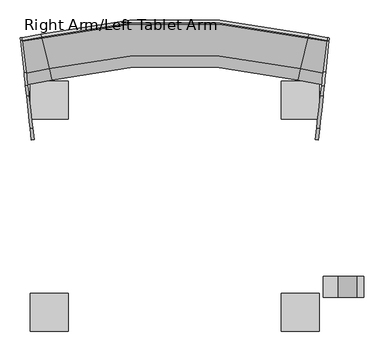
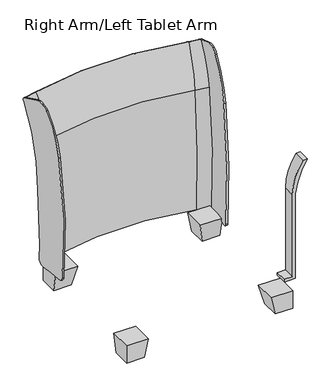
"""IFC4 building model written with IfcOpenShell, lengths in millimetres: furniture geometry, Steelcase Turnstone - Jenny - Seating - Lounge Chair : Right Arm/Left Tablet Arm."""

from ifc_helpers import new_model, si_unit, point, frame, frame_2d, origin, origin_with_axes, place, context, project, spatial, polyline, circle_curve, ellipse_curve, trimmed, segment, composite_curve, outline, extrude, faceted_brep, source, transform, mapped, element, save
from ifc_brep_helpers import plane_surface, revolved_surface, advanced_brep


def right_arm_left_tablet_arm_bb9a4e96(model_context):
    return source(origin(), model_context, "Body", "SolidModel", [
        extrude(outline(composite_curve([segment(trimmed(circle_curve(frame_2d((-271.7495755, 631.5743694)), 14.4058816), [point((-271.7495755, 645.9802509))], [point((-271.7495755, 617.1684878))], False, "CARTESIAN"), True, "CONTINUOUS"), segment(trimmed(circle_curve(frame_2d((-271.7495755, 631.5743694)), 14.4058816), [point((-271.7495755, 617.1684878))], [point((-271.7495755, 645.9802509))], False, "CARTESIAN"), True, "CONTINUOUS")], self_intersect=False)), origin_with_axes(), (0.0, 0.0, 1.0), 7.083069),
        extrude(outline(composite_curve([segment(trimmed(circle_curve(frame_2d((364.0680103, 631.2568742)), 14.4535487), [point((364.0680103, 645.7104229))], [point((364.0680103, 616.8033255))], False, "CARTESIAN"), True, "CONTINUOUS"), segment(trimmed(circle_curve(frame_2d((364.0680103, 631.2568742)), 14.4535487), [point((364.0680103, 616.8033255))], [point((364.0680103, 645.7104229))], False, "CARTESIAN"), True, "CONTINUOUS")], self_intersect=False)), origin_with_axes(), (0.0, 0.0, 1.0), 7.083069),
        faceted_brep([(324.8977267, 593.0641473, 7.083069), (324.8977267, 669.2641473, 7.083069), (401.0977267, 669.2641473, 7.083069), (401.0977267, 593.0641473, 7.083069), (307.6761035, 575.8429601, 95.4116322), (401.0977267, 575.8429601, 95.4116322), (401.0977267, 669.2641473, 95.4116322), (307.6761035, 669.2641473, 95.4116322)], [[[0, 1, 2, 3]], [[4, 5, 6, 7]], [[4, 7, 1, 0]], [[7, 6, 2, 1]], [[6, 5, 3, 2]], [[5, 4, 0, 3]]]),
        faceted_brep([(-233.4577267, 593.0641473, 7.083069), (-309.6577267, 593.0641473, 7.083069), (-309.6577267, 669.2641473, 7.083069), (-233.4577267, 669.2641473, 7.083069), (-216.2361035, 575.8429601, 95.4116322), (-216.2361035, 669.2641473, 95.4116322), (-309.6577267, 669.2641473, 95.4116322), (-309.6577267, 575.8429601, 95.4116322)], [[[0, 1, 2, 3]], [[4, 5, 6, 7]], [[4, 7, 1, 0]], [[7, 6, 2, 1]], [[6, 5, 3, 2]], [[5, 4, 0, 3]]]),
        extrude(outline(composite_curve([segment(trimmed(circle_curve(frame_2d((-271.7495755, 90.6150358)), 14.4058816), [point((-271.7495755, 76.2091543))], [point((-271.7495755, 105.0209174))], False, "CARTESIAN"), True, "CONTINUOUS"), segment(trimmed(circle_curve(frame_2d((-271.7495755, 90.6150358)), 14.4058816), [point((-271.7495755, 105.0209174))], [point((-271.7495755, 76.2091543))], False, "CARTESIAN"), True, "CONTINUOUS")], self_intersect=False)), origin_with_axes(), (0.0, 0.0, 1.0), 7.083069),
        extrude(outline(composite_curve([segment(trimmed(circle_curve(frame_2d((364.0680103, 90.932531)), 14.4535487), [point((364.0680103, 76.4789822))], [point((364.0680103, 105.3860797))], False, "CARTESIAN"), True, "CONTINUOUS"), segment(trimmed(circle_curve(frame_2d((364.0680103, 90.932531)), 14.4535487), [point((364.0680103, 105.3860797))], [point((364.0680103, 76.4789822))], False, "CARTESIAN"), True, "CONTINUOUS")], self_intersect=False)), origin_with_axes(), (0.0, 0.0, 1.0), 7.083069),
        faceted_brep([(324.8977267, 129.1252579, 7.083069), (401.0977267, 129.1252579, 7.083069), (401.0977267, 52.9252579, 7.083069), (324.8977267, 52.9252579, 7.083069), (307.6761035, 146.3464451, 85.2737648), (307.6761035, 52.9252579, 85.2737648), (401.0977267, 52.9252579, 85.2737648), (401.0977267, 146.3464451, 85.2737648)], [[[0, 1, 2, 3]], [[4, 5, 6, 7]], [[4, 7, 1, 0]], [[7, 6, 2, 1]], [[6, 5, 3, 2]], [[5, 4, 0, 3]]]),
        faceted_brep([(-233.4577267, 129.1252579, 7.083069), (-233.4577267, 52.9252579, 7.083069), (-309.6577267, 52.9252579, 7.083069), (-309.6577267, 129.1252579, 7.083069), (-216.2361035, 146.3464451, 85.2737648), (-309.6577267, 146.3464451, 85.2737648), (-309.6577267, 52.9252579, 85.2737648), (-216.2361035, 52.9252579, 85.2737648)], [[[0, 1, 2, 3]], [[4, 5, 6, 7]], [[4, 7, 1, 0]], [[7, 6, 2, 1]], [[6, 5, 3, 2]], [[5, 4, 0, 3]]]),
        extrude(outline(composite_curve([segment(trimmed(circle_curve(frame_2d((419.0031767, 773.4778054)), 315.1303859), [point((451.6044174, 460.0383068))], [point((592.311266, 510.2830746))], True, "CARTESIAN"), True, "CONTINUOUS"), segment(polyline([(592.311266, 510.2830746), (592.311266, 492.8706051)]), True, "CONTINUOUS"), segment(trimmed(circle_curve(frame_2d((452.3250069, 685.2950539)), 237.9565533), [point((592.311266, 492.8706051))], [point((452.3250069, 447.3385006))], False, "CARTESIAN"), True, "CONTINUOUS"), segment(polyline([(452.3250069, 447.3385006), (81.9210443, 447.3385006), (81.9210443, 411.48), (69.2210428, 411.48), (69.2210428, 460.0383068), (451.6044174, 460.0383068)]), True, "CONTINUOUS")], self_intersect=False)), frame((0.0, 136.9954231, 0.0), z_axis=(0.0, 1.0, 0.0), x_axis=(0.0, 0.0, 1.0)), (0.0, 0.0, 1.0), 50.8000242),
        advanced_brep(
        [(-319.3128558, 688.9118721, 614.3798536), (-328.4886501, 766.5758751, 782.0850534), (-328.7377532, 768.6842856, 781.0193185), (-329.3646857, 773.9906478, 763.3929272), (-319.0040839, 686.2984239, 412.1857232), (-317.8644919, 676.6529077, 226.5942002), (-317.829176, 676.3539931, 111.3923483), (-316.9201057, 668.6596146, 90.0869227), (-281.3474538, 775.0009474, 782.0850534), (-263.054252, 698.9664071, 614.3798536), (-281.8440748, 777.0651215, 781.0193185), (-283.0939506, 782.2601513, 763.3929272), (-262.4386729, 696.4077914, 412.1857232), (-260.1667403, 686.964647, 226.5942002), (-260.0963331, 686.6720039, 111.3923483), (-258.2839772, 679.1390607, 90.0869227), (372.7874538, 775.0009474, 782.0850534), (354.494252, 698.9664071, 614.3798536), (373.2840748, 777.0651215, 781.0193185), (374.5339506, 782.2601513, 763.3929272), (353.8786729, 696.4077914, 412.1857232), (351.6067403, 686.964647, 226.5942002), (351.5363331, 686.6720039, 111.3923483), (349.7239772, 679.1390607, 90.0869227), (410.7528558, 688.9118721, 614.3798536), (408.3601057, 668.6596146, 90.0869227), (409.269176, 676.3539931, 111.3923483), (409.3044919, 676.6529077, 226.5942002), (410.4440839, 686.2984239, 412.1857232), (420.8046857, 773.9906478, 763.3929272), (420.1777532, 768.6842856, 781.0193185), (419.9286501, 766.5758751, 782.0850534)],
        [
            (0, 1, circle_curve(frame((-361.2620142, 1043.9699138, 549.7445151), z_axis=(-0.9930928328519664, -0.11733126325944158, 0.0), x_axis=(-0.11733126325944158, 0.9930928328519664, 0.0)), 363.3230957)),
            (1, 2),
            (2, 3, circle_curve(frame((-328.0692515, 763.0260816, 769.6690835), z_axis=(-0.9930928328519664, -0.11733126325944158, 0.0), x_axis=(-0.11733126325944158, 0.9930928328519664, 0.0)), 12.7)),
            (3, 4, circle_curve(frame((-398.4640732, 1358.8484643, 428.618251), z_axis=(0.9930928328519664, 0.11733126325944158, 0.0), x_axis=(-0.11733126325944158, 0.9930928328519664, 0.0)), 677.4270991)),
            (4, 5, circle_curve(frame((-176.4714301, -520.0991972, 382.7096079), z_axis=(-0.9930928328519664, -0.11733126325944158, 0.0), x_axis=(-0.11733126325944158, 0.9930928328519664, 0.0)), 1215.145925)),
            (5, 6, circle_curve(frame((-371.1075775, 1127.3028473, 167.8072561), z_axis=(0.9930928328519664, 0.11733126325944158, 0.0), x_axis=(-0.11733126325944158, 0.9930928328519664, 0.0)), 457.5763313)),
            (6, 7, circle_curve(frame((-314.9285798, 651.8033223, 108.3209937), z_axis=(-0.9930928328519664, -0.11733126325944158, 0.0), x_axis=(-0.11733126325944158, 0.9930928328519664, 0.0)), 24.9114856)),
            (7, 0, circle_curve(frame((-536.4175659, 2526.4880272, 279.8645269), z_axis=(-0.9930928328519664, -0.11733126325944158, 0.0), x_axis=(-0.11733126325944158, 0.9930928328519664, 0.0)), 1880.3513194)),
            (8, 1, circle_curve(frame((-375.9317332, 1168.1345426, 782.0850534), z_axis=(0.0, 0.0, -1.0), x_axis=(0.1173312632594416, -0.9930928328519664, 0.0)), 404.3515915)),
            (0, 9, circle_curve(frame((-375.9317332, 1168.1345426, 614.3798536), z_axis=(0.0, 0.0, 1.0), x_axis=(0.1173312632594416, -0.9930928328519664, 0.0)), 482.5557637)),
            (9, 8, circle_curve(frame((-346.6856407, 1046.5750026, 549.7445151), z_axis=(-0.9722568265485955, -0.23391593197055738, 0.0), x_axis=(-0.23391593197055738, 0.9722568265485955, 0.0)), 363.3230957)),
            (10, 2, circle_curve(frame((-375.9317332, 1168.1345426, 781.0193185), z_axis=(0.0, 0.0, -1.0), x_axis=(0.1173312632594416, -0.9930928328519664, 0.0)), 402.2285166)),
            (8, 10),
            (11, 3, circle_curve(frame((-375.9317332, 1168.1345426, 763.3929272), z_axis=(0.0, 0.0, -1.0), x_axis=(0.1173312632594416, -0.9930928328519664, 0.0)), 396.8852475)),
            (10, 11, circle_curve(frame((-280.5113253, 771.5256318, 769.6690835), z_axis=(-0.9722568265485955, -0.23391593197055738, 0.0), x_axis=(-0.23391593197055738, 0.9722568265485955, 0.0)), 12.7)),
            (12, 4, circle_curve(frame((-375.9317332, 1168.1345426, 412.1857232), z_axis=(0.0, 0.0, -1.0), x_axis=(0.1173312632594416, -0.9930928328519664, 0.0)), 485.187389)),
            (11, 12, circle_curve(frame((-420.8530368, 1354.8471098, 428.618251), z_axis=(0.9722568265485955, 0.23391593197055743, 0.0), x_axis=(-0.23391593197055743, 0.9722568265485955, 0.0)), 677.4270991)),
            (13, 5, circle_curve(frame((-375.9317332, 1168.1345426, 226.5942002), z_axis=(0.0, 0.0, -1.0), x_axis=(0.1173312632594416, -0.9930928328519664, 0.0)), 494.8999918)),
            (12, 13, circle_curve(frame((21.7196802, -484.6784917, 382.7096079), z_axis=(-0.9722568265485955, -0.23391593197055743, 0.0), x_axis=(-0.23391593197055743, 0.9722568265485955, 0.0)), 1215.145925)),
            (14, 6, circle_curve(frame((-375.9317332, 1168.1345426, 111.3923483), z_axis=(0.0, 0.0, -1.0), x_axis=(0.1173312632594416, -0.9930928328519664, 0.0)), 495.2009855)),
            (13, 14, circle_curve(frame((-366.3141186, 1128.159534, 167.8072561), z_axis=(0.9722568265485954, 0.2339159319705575, 0.0), x_axis=(-0.2339159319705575, 0.9722568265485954, 0.0)), 457.5763313)),
            (15, 7, circle_curve(frame((-375.9317332, 1168.1345426, 90.0869227), z_axis=(0.0, 0.0, -1.0), x_axis=(0.1173312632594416, -0.9930928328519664, 0.0)), 502.9488799)),
            (14, 15, circle_curve(frame((-254.3135978, 662.6364289, 108.3209937), z_axis=(-0.9722568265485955, -0.23391593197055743, 0.0), x_axis=(-0.23391593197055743, 0.9722568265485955, 0.0)), 24.9114856)),
            (15, 9, circle_curve(frame((-695.8822058, 2497.9885145, 279.8645269), z_axis=(-0.9722568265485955, -0.2339159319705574, 0.0), x_axis=(-0.2339159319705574, 0.9722568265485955, 0.0)), 1880.3513194)),
            (16, 8, circle_curve(frame((45.72, -584.4343079, 782.0850534), z_axis=(0.0, 0.0, 1.0), x_axis=(-0.23391593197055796, 0.9722568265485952, 0.0)), 1398.2264955)),
            (9, 17, circle_curve(frame((45.72, -584.4343079, 614.3798536), z_axis=(0.0, 0.0, -1.0), x_axis=(-0.23391593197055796, 0.9722568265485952, 0.0)), 1320.0223232)),
            (17, 16, circle_curve(frame((438.1256407, 1046.5750026, 549.7445151), z_axis=(-0.972256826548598, 0.23391593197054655, 0.0), x_axis=(0.23391593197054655, 0.972256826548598, 0.0)), 363.3230957)),
            (18, 10, circle_curve(frame((45.72, -584.4343079, 781.0193185), z_axis=(0.0, 0.0, 1.0), x_axis=(-0.23391593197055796, 0.9722568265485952, 0.0)), 1400.3495704)),
            (16, 18),
            (19, 11, circle_curve(frame((45.72, -584.4343079, 763.3929272), z_axis=(0.0, 0.0, 1.0), x_axis=(-0.23391593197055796, 0.9722568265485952, 0.0)), 1405.6928394)),
            (18, 19, circle_curve(frame((371.9513253, 771.5256318, 769.6690835), z_axis=(-0.9722568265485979, 0.233915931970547, 0.0), x_axis=(0.233915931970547, 0.9722568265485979, 0.0)), 12.7)),
            (20, 12, circle_curve(frame((45.72, -584.4343079, 412.1857232), z_axis=(0.0, 0.0, 1.0), x_axis=(-0.23391593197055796, 0.9722568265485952, 0.0)), 1317.3906979)),
            (19, 20, circle_curve(frame((512.2930368, 1354.8471098, 428.618251), z_axis=(0.9722568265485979, -0.23391593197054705, 0.0), x_axis=(0.23391593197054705, 0.9722568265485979, 0.0)), 677.4270991)),
            (21, 13, circle_curve(frame((45.72, -584.4343079, 226.5942002), z_axis=(0.0, 0.0, 1.0), x_axis=(-0.23391593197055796, 0.9722568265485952, 0.0)), 1307.6780951)),
            (20, 21, circle_curve(frame((69.7203198, -484.6784917, 382.7096079), z_axis=(-0.972256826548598, 0.2339159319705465, 0.0), x_axis=(0.2339159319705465, 0.972256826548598, 0.0)), 1215.145925)),
            (22, 14, circle_curve(frame((45.72, -584.4343079, 111.3923483), z_axis=(0.0, 0.0, 1.0), x_axis=(-0.23391593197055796, 0.9722568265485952, 0.0)), 1307.3771015)),
            (21, 22, circle_curve(frame((457.7541186, 1128.159534, 167.8072561), z_axis=(0.972256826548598, -0.2339159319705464, 0.0), x_axis=(0.2339159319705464, 0.972256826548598, 0.0)), 457.5763313)),
            (23, 15, circle_curve(frame((45.72, -584.4343079, 90.0869227), z_axis=(0.0, 0.0, 1.0), x_axis=(-0.23391593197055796, 0.9722568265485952, 0.0)), 1299.629207)),
            (22, 23, circle_curve(frame((345.7535978, 662.6364289, 108.3209937), z_axis=(-0.972256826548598, 0.23391593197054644, 0.0), x_axis=(0.23391593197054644, 0.972256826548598, 0.0)), 24.9114856)),
            (23, 17, circle_curve(frame((787.3222058, 2497.9885145, 279.8645269), z_axis=(-0.9722568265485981, 0.23391593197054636, 0.0), x_axis=(0.23391593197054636, 0.9722568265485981, 0.0)), 1880.3513194)),
            (24, 25, circle_curve(frame((627.8575659, 2526.4880272, 279.8645269), z_axis=(0.9930928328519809, -0.11733126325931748, 0.0), x_axis=(0.11733126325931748, 0.9930928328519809, 0.0)), 1880.3513194)),
            (25, 26, circle_curve(frame((406.3685798, 651.8033223, 108.3209937), z_axis=(0.9930928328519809, -0.11733126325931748, 0.0), x_axis=(0.11733126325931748, 0.9930928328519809, 0.0)), 24.9114856)),
            (26, 27, circle_curve(frame((462.5475775, 1127.3028473, 167.8072561), z_axis=(-0.9930928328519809, 0.11733126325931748, 0.0), x_axis=(0.11733126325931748, 0.9930928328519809, 0.0)), 457.5763313)),
            (27, 28, circle_curve(frame((267.9114301, -520.0991972, 382.7096079), z_axis=(0.9930928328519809, -0.11733126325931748, 0.0), x_axis=(0.11733126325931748, 0.9930928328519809, 0.0)), 1215.145925)),
            (28, 29, circle_curve(frame((489.9040732, 1358.8484643, 428.618251), z_axis=(-0.9930928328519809, 0.11733126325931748, 0.0), x_axis=(0.11733126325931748, 0.9930928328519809, 0.0)), 677.4270991)),
            (29, 30, circle_curve(frame((419.5092515, 763.0260816, 769.6690835), z_axis=(0.9930928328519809, -0.11733126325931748, 0.0), x_axis=(0.11733126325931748, 0.9930928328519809, 0.0)), 12.7)),
            (30, 31),
            (31, 24, circle_curve(frame((452.7020142, 1043.9699138, 549.7445151), z_axis=(0.9930928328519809, -0.11733126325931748, 0.0), x_axis=(0.11733126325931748, 0.9930928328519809, 0.0)), 363.3230957)),
            (31, 16, circle_curve(frame((467.3717332, 1168.1345426, 782.0850534), z_axis=(0.0, 0.0, -1.0), x_axis=(-0.2339159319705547, -0.972256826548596, 0.0)), 404.3515915)),
            (17, 24, circle_curve(frame((467.3717332, 1168.1345426, 614.3798536), z_axis=(0.0, 0.0, 1.0), x_axis=(-0.2339159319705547, -0.972256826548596, 0.0)), 482.5557637)),
            (30, 18, circle_curve(frame((467.3717332, 1168.1345426, 781.0193185), z_axis=(0.0, 0.0, -1.0), x_axis=(-0.2339159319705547, -0.972256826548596, 0.0)), 402.2285166)),
            (29, 19, circle_curve(frame((467.3717332, 1168.1345426, 763.3929272), z_axis=(0.0, 0.0, -1.0), x_axis=(-0.2339159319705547, -0.972256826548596, 0.0)), 396.8852475)),
            (28, 20, circle_curve(frame((467.3717332, 1168.1345426, 412.1857232), z_axis=(0.0, 0.0, -1.0), x_axis=(-0.2339159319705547, -0.972256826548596, 0.0)), 485.187389)),
            (27, 21, circle_curve(frame((467.3717332, 1168.1345426, 226.5942002), z_axis=(0.0, 0.0, -1.0), x_axis=(-0.2339159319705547, -0.972256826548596, 0.0)), 494.8999918)),
            (26, 22, circle_curve(frame((467.3717332, 1168.1345426, 111.3923483), z_axis=(0.0, 0.0, -1.0), x_axis=(-0.2339159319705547, -0.972256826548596, 0.0)), 495.2009855)),
            (25, 23, circle_curve(frame((467.3717332, 1168.1345426, 90.0869227), z_axis=(0.0, 0.0, -1.0), x_axis=(-0.2339159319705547, -0.972256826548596, 0.0)), 502.9488799)),
        ],
        [
            plane_surface(frame((-309.88, 609.0720985, 0.0), z_axis=(-0.9930928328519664, -0.1173312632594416, 0.0), x_axis=(0.0, 0.0, 1.0))),
            revolved_surface(trimmed(ellipse_curve(frame((-361.2620142, 1043.9699138, 549.7445151), z_axis=(-0.9930928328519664, -0.11733126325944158, 0.0), x_axis=(-0.11733126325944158, 0.9930928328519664, 0.0)), 363.3230957, 363.3230957), [point((-319.3128558, 688.9118721, 614.3798536))], [point((-328.4886501, 766.5758751, 782.0850534))], True, "CARTESIAN"), (-375.9317332, 1168.1345426, 0.0), (0.0, 0.0, 1.0)),
            revolved_surface(polyline([(-328.4886501, 766.5758751, 782.0850534), (-328.7377532, 768.6842856, 781.0193185)]), (-375.9317332, 1168.1345426, 0.0), (0.0, 0.0, 1.0)),
            revolved_surface(trimmed(ellipse_curve(frame((-328.0692515, 763.0260816, 769.6690835), z_axis=(-0.9930928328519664, -0.11733126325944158, 0.0), x_axis=(-0.11733126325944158, 0.9930928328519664, 0.0)), 12.7, 12.7), [point((-328.7377532, 768.6842856, 781.0193185))], [point((-329.3646857, 773.9906478, 763.3929272))], True, "CARTESIAN"), (-375.9317332, 1168.1345426, 0.0), (0.0, 0.0, 1.0)),
            revolved_surface(trimmed(ellipse_curve(frame((-398.4640732, 1358.8484643, 428.618251), z_axis=(0.9930928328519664, 0.11733126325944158, 0.0), x_axis=(-0.11733126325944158, 0.9930928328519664, 0.0)), 677.4270991, 677.4270991), [point((-329.3646857, 773.9906478, 763.3929272))], [point((-319.0040839, 686.2984239, 412.1857232))], True, "CARTESIAN"), (-375.9317332, 1168.1345426, 0.0), (0.0, 0.0, 1.0)),
            revolved_surface(trimmed(ellipse_curve(frame((-176.4714301, -520.0991972, 382.7096079), z_axis=(-0.9930928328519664, -0.11733126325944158, 0.0), x_axis=(-0.11733126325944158, 0.9930928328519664, 0.0)), 1215.145925, 1215.145925), [point((-319.0040839, 686.2984239, 412.1857232))], [point((-317.8644919, 676.6529077, 226.5942002))], True, "CARTESIAN"), (-375.9317332, 1168.1345426, 0.0), (0.0, 0.0, 1.0)),
            revolved_surface(trimmed(ellipse_curve(frame((-371.1075775, 1127.3028473, 167.8072561), z_axis=(0.9930928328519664, 0.11733126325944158, 0.0), x_axis=(-0.11733126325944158, 0.9930928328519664, 0.0)), 457.5763313, 457.5763313), [point((-317.8644919, 676.6529077, 226.5942002))], [point((-317.829176, 676.3539931, 111.3923483))], True, "CARTESIAN"), (-375.9317332, 1168.1345426, 0.0), (0.0, 0.0, 1.0)),
            revolved_surface(trimmed(ellipse_curve(frame((-314.9285798, 651.8033223, 108.3209937), z_axis=(-0.9930928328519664, -0.11733126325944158, 0.0), x_axis=(-0.11733126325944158, 0.9930928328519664, 0.0)), 24.9114856, 24.9114856), [point((-317.829176, 676.3539931, 111.3923483))], [point((-316.9201057, 668.6596146, 90.0869227))], True, "CARTESIAN"), (-375.9317332, 1168.1345426, 0.0), (0.0, 0.0, 1.0)),
            revolved_surface(trimmed(ellipse_curve(frame((-536.4175659, 2526.4880272, 279.8645269), z_axis=(-0.9930928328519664, -0.11733126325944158, 0.0), x_axis=(-0.11733126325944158, 0.9930928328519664, 0.0)), 1880.3513194, 1880.3513194), [point((-316.9201057, 668.6596146, 90.0869227))], [point((-319.3128558, 688.9118721, 614.3798536))], True, "CARTESIAN"), (-375.9317332, 1168.1345426, 0.0), (0.0, 0.0, 1.0)),
            revolved_surface(trimmed(ellipse_curve(frame((-346.6856407, 1046.5750026, 549.7445151), z_axis=(-0.9722568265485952, -0.23391593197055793, 0.0), x_axis=(-0.23391593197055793, 0.9722568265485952, 0.0)), 363.3230957, 363.3230957), [point((-263.054252, 698.9664071, 614.3798536))], [point((-281.3474538, 775.0009474, 782.0850534))], True, "CARTESIAN"), (45.72, -584.4343079, 0.0), (0.0, 0.0, -1.0)),
            revolved_surface(polyline([(-281.3474538, 775.0009474, 782.0850534), (-281.8440748, 777.0651215, 781.0193185)]), (45.72, -584.4343079, 0.0), (0.0, 0.0, -1.0)),
            revolved_surface(trimmed(ellipse_curve(frame((-280.5113253, 771.5256318, 769.6690835), z_axis=(-0.9722568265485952, -0.23391593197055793, 0.0), x_axis=(-0.23391593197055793, 0.9722568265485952, 0.0)), 12.7, 12.7), [point((-281.8440748, 777.0651215, 781.0193185))], [point((-283.0939506, 782.2601513, 763.3929272))], True, "CARTESIAN"), (45.72, -584.4343079, 0.0), (0.0, 0.0, -1.0)),
            revolved_surface(trimmed(ellipse_curve(frame((-420.8530368, 1354.8471098, 428.618251), z_axis=(0.9722568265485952, 0.23391593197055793, 0.0), x_axis=(-0.23391593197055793, 0.9722568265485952, 0.0)), 677.4270991, 677.4270991), [point((-283.0939506, 782.2601513, 763.3929272))], [point((-262.4386729, 696.4077914, 412.1857232))], True, "CARTESIAN"), (45.72, -584.4343079, 0.0), (0.0, 0.0, -1.0)),
            revolved_surface(trimmed(ellipse_curve(frame((21.7196802, -484.6784917, 382.7096079), z_axis=(-0.9722568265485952, -0.23391593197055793, 0.0), x_axis=(-0.23391593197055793, 0.9722568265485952, 0.0)), 1215.145925, 1215.145925), [point((-262.4386729, 696.4077914, 412.1857232))], [point((-260.1667403, 686.964647, 226.5942002))], True, "CARTESIAN"), (45.72, -584.4343079, 0.0), (0.0, 0.0, -1.0)),
            revolved_surface(trimmed(ellipse_curve(frame((-366.3141186, 1128.159534, 167.8072561), z_axis=(0.9722568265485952, 0.23391593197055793, 0.0), x_axis=(-0.23391593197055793, 0.9722568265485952, 0.0)), 457.5763313, 457.5763313), [point((-260.1667403, 686.964647, 226.5942002))], [point((-260.0963331, 686.6720039, 111.3923483))], True, "CARTESIAN"), (45.72, -584.4343079, 0.0), (0.0, 0.0, -1.0)),
            revolved_surface(trimmed(ellipse_curve(frame((-254.3135978, 662.6364289, 108.3209937), z_axis=(-0.9722568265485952, -0.23391593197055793, 0.0), x_axis=(-0.23391593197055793, 0.9722568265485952, 0.0)), 24.9114856, 24.9114856), [point((-260.0963331, 686.6720039, 111.3923483))], [point((-258.2839772, 679.1390607, 90.0869227))], True, "CARTESIAN"), (45.72, -584.4343079, 0.0), (0.0, 0.0, -1.0)),
            revolved_surface(trimmed(ellipse_curve(frame((-695.8822058, 2497.9885145, 279.8645269), z_axis=(-0.9722568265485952, -0.23391593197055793, 0.0), x_axis=(-0.23391593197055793, 0.9722568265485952, 0.0)), 1880.3513194, 1880.3513194), [point((-258.2839772, 679.1390607, 90.0869227))], [point((-263.054252, 698.9664071, 614.3798536))], True, "CARTESIAN"), (45.72, -584.4343079, 0.0), (0.0, 0.0, -1.0)),
            plane_surface(frame((401.32, 609.0720985, 0.0), z_axis=(0.993092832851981, -0.11733126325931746, 0.0), x_axis=(0.0, 0.0, 1.0))),
            revolved_surface(trimmed(ellipse_curve(frame((438.1256407, 1046.5750026, 549.7445151), z_axis=(-0.972256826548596, 0.2339159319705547, 0.0), x_axis=(0.2339159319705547, 0.972256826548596, 0.0)), 363.3230957, 363.3230957), [point((354.494252, 698.9664071, 614.3798536))], [point((372.7874538, 775.0009474, 782.0850534))], True, "CARTESIAN"), (467.3717332, 1168.1345426, 0.0), (0.0, 0.0, 1.0)),
            revolved_surface(polyline([(372.7874538, 775.0009474, 782.0850534), (373.2840748, 777.0651215, 781.0193185)]), (467.3717332, 1168.1345426, 0.0), (0.0, 0.0, 1.0)),
            revolved_surface(trimmed(ellipse_curve(frame((371.9513253, 771.5256318, 769.6690835), z_axis=(-0.972256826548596, 0.2339159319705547, 0.0), x_axis=(0.2339159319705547, 0.972256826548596, 0.0)), 12.7, 12.7), [point((373.2840748, 777.0651215, 781.0193185))], [point((374.5339506, 782.2601513, 763.3929272))], True, "CARTESIAN"), (467.3717332, 1168.1345426, 0.0), (0.0, 0.0, 1.0)),
            revolved_surface(trimmed(ellipse_curve(frame((512.2930368, 1354.8471098, 428.618251), z_axis=(0.972256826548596, -0.2339159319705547, 0.0), x_axis=(0.2339159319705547, 0.972256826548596, 0.0)), 677.4270991, 677.4270991), [point((374.5339506, 782.2601513, 763.3929272))], [point((353.8786729, 696.4077914, 412.1857232))], True, "CARTESIAN"), (467.3717332, 1168.1345426, 0.0), (0.0, 0.0, 1.0)),
            revolved_surface(trimmed(ellipse_curve(frame((69.7203198, -484.6784917, 382.7096079), z_axis=(-0.972256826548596, 0.2339159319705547, 0.0), x_axis=(0.2339159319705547, 0.972256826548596, 0.0)), 1215.145925, 1215.145925), [point((353.8786729, 696.4077914, 412.1857232))], [point((351.6067403, 686.964647, 226.5942002))], True, "CARTESIAN"), (467.3717332, 1168.1345426, 0.0), (0.0, 0.0, 1.0)),
            revolved_surface(trimmed(ellipse_curve(frame((457.7541186, 1128.159534, 167.8072561), z_axis=(0.972256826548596, -0.2339159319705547, 0.0), x_axis=(0.2339159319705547, 0.972256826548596, 0.0)), 457.5763313, 457.5763313), [point((351.6067403, 686.964647, 226.5942002))], [point((351.5363331, 686.6720039, 111.3923483))], True, "CARTESIAN"), (467.3717332, 1168.1345426, 0.0), (0.0, 0.0, 1.0)),
            revolved_surface(trimmed(ellipse_curve(frame((345.7535978, 662.6364289, 108.3209937), z_axis=(-0.972256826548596, 0.2339159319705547, 0.0), x_axis=(0.2339159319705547, 0.972256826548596, 0.0)), 24.9114856, 24.9114856), [point((351.5363331, 686.6720039, 111.3923483))], [point((349.7239772, 679.1390607, 90.0869227))], True, "CARTESIAN"), (467.3717332, 1168.1345426, 0.0), (0.0, 0.0, 1.0)),
            revolved_surface(trimmed(ellipse_curve(frame((787.3222058, 2497.9885145, 279.8645269), z_axis=(-0.972256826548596, 0.2339159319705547, 0.0), x_axis=(0.2339159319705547, 0.972256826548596, 0.0)), 1880.3513194, 1880.3513194), [point((349.7239772, 679.1390607, 90.0869227))], [point((354.494252, 698.9664071, 614.3798536))], True, "CARTESIAN"), (467.3717332, 1168.1345426, 0.0), (0.0, 0.0, 1.0)),
        ],
        [
            (0, [[1, 2, 3, 4, 5, 6, 7, 8]]),
            (1, [[9, -1, 10, 11]]),
            (2, [[12, -2, -9, 13]]),
            (3, [[14, -3, -12, 15]]),
            (4, [[16, -4, -14, 17]]),
            (5, [[18, -5, -16, 19]]),
            (6, [[20, -6, -18, 21]]),
            (7, [[22, -7, -20, 23]]),
            (8, [[-10, -8, -22, 24]]),
            (9, [[25, -11, 26, 27]]),
            (10, [[28, -13, -25, 29]]),
            (11, [[30, -15, -28, 31]]),
            (12, [[32, -17, -30, 33]]),
            (13, [[34, -19, -32, 35]]),
            (14, [[36, -21, -34, 37]]),
            (15, [[38, -23, -36, 39]]),
            (16, [[-26, -24, -38, 40]]),
            (17, [[41, 42, 43, 44, 45, 46, 47, 48]]),
            (18, [[49, -27, 50, -48]]),
            (19, [[51, -29, -49, -47]]),
            (20, [[52, -31, -51, -46]]),
            (21, [[53, -33, -52, -45]]),
            (22, [[54, -35, -53, -44]]),
            (23, [[55, -37, -54, -43]]),
            (24, [[56, -39, -55, -42]]),
            (25, [[-50, -40, -56, -41]]),
        ],
    ),
        advanced_brep(
        [(416.7431422, 690.4168678, 813.9027777), (413.2278894, 657.2478941, 814.4538477), (410.5581433, 632.056893, 797.7221008), (402.1268462, 552.5014564, 627.8736036), (400.0484196, 532.8899867, 97.0710008), (402.1149504, 552.3892108, 81.9987921), (412.2567036, 648.0840483, 83.5957513), (415.1825291, 675.6913448, 111.3923483), (415.2142508, 675.9906622, 226.5942002), (416.2378614, 685.6491753, 412.1857232), (425.5440192, 773.4595598, 763.3929272), (424.9808923, 768.1460475, 781.0193185), (411.006616, 691.0597009, 813.9027777), (420.1777532, 768.6842856, 781.0193185), (420.8046857, 773.9906478, 763.3929272), (410.4440839, 686.2984239, 412.1857232), (409.3044919, 676.6529077, 226.5942002), (409.269176, 676.3539931, 111.3923483), (406.0118368, 648.7838459, 83.5957513), (394.7209614, 553.2177786, 81.9987921), (392.4202803, 533.7447933, 97.0710008), (394.7342051, 553.3298731, 627.8736036), (404.1208193, 632.7782572, 797.7221008), (407.0930638, 657.9353605, 814.4538477)],
        [
            (0, 1, circle_curve(frame((414.8963053, 672.9906155, 762.9432742), z_axis=(0.9944309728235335, -0.10538994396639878, 0.0), x_axis=(-0.10538994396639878, -0.9944309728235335, 0.0)), 53.8883667)),
            (1, 2, circle_curve(frame((414.8963053, 672.9906155, 762.9432742), z_axis=(0.9944309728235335, -0.10538994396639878, 0.0), x_axis=(-0.10538994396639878, -0.9944309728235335, 0.0)), 53.8883667)),
            (2, 3, circle_curve(frame((439.806654, 908.03792, 563.2382651), z_axis=(0.9944309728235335, -0.10538994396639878, 0.0), x_axis=(-0.10538994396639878, -0.9944309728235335, 0.0)), 363.3230957)),
            (3, 4, circle_curve(frame((597.135854, 2392.5536479, 293.3582769), z_axis=(0.9944309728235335, -0.10538994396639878, 0.0), x_axis=(-0.10538994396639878, -0.9944309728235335, 0.0)), 1880.3513194)),
            (4, 5, circle_curve(frame((401.8364347, 549.7612128, 98.8517567), z_axis=(0.9944309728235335, -0.10538994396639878, 0.0), x_axis=(-0.10538994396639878, -0.9944309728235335, 0.0)), 17.0589085)),
            (5, 6, circle_curve(frame((407.7875508, 605.9143321, -261.2499371), z_axis=(-0.9944309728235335, 0.10538994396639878, 0.0), x_axis=(-0.10538994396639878, -0.9944309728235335, 0.0)), 347.443243)),
            (6, 7, circle_curve(frame((412.5771394, 651.1075933, 108.3209937), z_axis=(0.9944309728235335, -0.10538994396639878, 0.0), x_axis=(-0.10538994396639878, -0.9944309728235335, 0.0)), 24.9114856)),
            (7, 8, circle_curve(frame((463.0385531, 1127.2478287, 167.8072561), z_axis=(-0.9944309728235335, 0.10538994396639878, 0.0), x_axis=(-0.10538994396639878, -0.9944309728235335, 0.0)), 457.5763313)),
            (8, 9, circle_curve(frame((288.2113834, -522.3740028, 382.7096079), z_axis=(0.9944309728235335, -0.10538994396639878, 0.0), x_axis=(-0.10538994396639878, -0.9944309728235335, 0.0)), 1215.145925)),
            (9, 10, circle_curve(frame((487.6108577, 1359.1054412, 428.618251), z_axis=(-0.9944309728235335, 0.10538994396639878, 0.0), x_axis=(-0.10538994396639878, -0.9944309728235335, 0.0)), 677.4270991)),
            (10, 11, circle_curve(frame((424.380427, 762.4802194, 769.6690835), z_axis=(0.9944309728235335, -0.10538994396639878, 0.0), x_axis=(-0.10538994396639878, -0.9944309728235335, 0.0)), 12.7)),
            (11, 0, circle_curve(frame((395.0415569, 485.6465852, 215.0940543), z_axis=(0.9944309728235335, -0.10538994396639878, 0.0), x_axis=(-0.10538994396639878, -0.9944309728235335, 0.0)), 633.2248531)),
            (12, 13, circle_curve(frame((386.8461096, 486.5649641, 215.0940543), z_axis=(-0.9930928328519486, 0.11733126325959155, 0.0), x_axis=(-0.11733126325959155, -0.9930928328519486, 0.0)), 633.2248531)),
            (13, 14, circle_curve(frame((419.5092515, 763.0260816, 769.6690835), z_axis=(-0.9930928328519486, 0.11733126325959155, 0.0), x_axis=(-0.11733126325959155, -0.9930928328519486, 0.0)), 12.7)),
            (14, 15, circle_curve(frame((489.9040732, 1358.8484643, 428.618251), z_axis=(0.9930928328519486, -0.11733126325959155, 0.0), x_axis=(-0.11733126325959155, -0.9930928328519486, 0.0)), 677.4270991)),
            (15, 16, circle_curve(frame((267.9114301, -520.0991972, 382.7096079), z_axis=(-0.9930928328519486, 0.11733126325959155, 0.0), x_axis=(-0.11733126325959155, -0.9930928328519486, 0.0)), 1215.145925)),
            (16, 17, circle_curve(frame((462.5475775, 1127.3028473, 167.8072561), z_axis=(0.9930928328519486, -0.11733126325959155, 0.0), x_axis=(-0.11733126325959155, -0.9930928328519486, 0.0)), 457.5763313)),
            (17, 18, circle_curve(frame((406.3685798, 651.8033223, 108.3209937), z_axis=(-0.9930928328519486, 0.11733126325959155, 0.0), x_axis=(-0.11733126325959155, -0.9930928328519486, 0.0)), 24.9114856)),
            (18, 19, circle_curve(frame((401.0363018, 606.6708747, -261.2499371), z_axis=(0.9930928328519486, -0.11733126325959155, 0.0), x_axis=(-0.11733126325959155, -0.9930928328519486, 0.0)), 347.443243)),
            (19, 20, circle_curve(frame((394.4108883, 550.5933169, 98.8517567), z_axis=(-0.9930928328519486, 0.11733126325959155, 0.0), x_axis=(-0.11733126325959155, -0.9930928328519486, 0.0)), 17.0589085)),
            (20, 21, circle_curve(frame((611.8389152, 2390.9060281, 293.3582769), z_axis=(-0.9930928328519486, 0.11733126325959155, 0.0), x_axis=(-0.11733126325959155, -0.9930928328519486, 0.0)), 1880.3513194)),
            (21, 22, circle_curve(frame((436.6833635, 908.3879148, 563.2382651), z_axis=(-0.9930928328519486, 0.11733126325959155, 0.0), x_axis=(-0.11733126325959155, -0.9930928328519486, 0.0)), 363.3230957)),
            (22, 23, circle_curve(frame((408.9505214, 673.6568979, 762.9432742), z_axis=(-0.9930928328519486, 0.11733126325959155, 0.0), x_axis=(-0.11733126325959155, -0.9930928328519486, 0.0)), 53.8883667)),
            (23, 12, circle_curve(frame((408.9505214, 673.6568979, 762.9432742), z_axis=(-0.9930928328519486, 0.11733126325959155, 0.0), x_axis=(-0.11733126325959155, -0.9930928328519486, 0.0)), 53.8883667)),
            (23, 1, circle_curve(frame((467.3717332, 1168.1345426, 814.4538477), z_axis=(0.0, 0.0, 1.0), x_axis=(-0.10538994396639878, -0.9944309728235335, 0.0)), 513.7477235)),
            (0, 12, circle_curve(frame((467.3717332, 1168.1345426, 813.9027777), z_axis=(0.0, 0.0, -1.0), x_axis=(-0.10538994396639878, -0.9944309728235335, 0.0)), 480.3929964)),
            (22, 2, circle_curve(frame((467.3717332, 1168.1345426, 797.7221008), z_axis=(0.0, 0.0, 1.0), x_axis=(-0.10538994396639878, -0.9944309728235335, 0.0)), 539.0797997)),
            (21, 3, circle_curve(frame((467.3717332, 1168.1345426, 627.8736036), z_axis=(0.0, 0.0, 1.0), x_axis=(-0.10538994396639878, -0.9944309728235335, 0.0)), 619.0807637)),
            (20, 4, circle_curve(frame((467.3717332, 1168.1345426, 97.0710008), z_axis=(0.0, 0.0, 1.0), x_axis=(-0.10538994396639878, -0.9944309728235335, 0.0)), 638.8020619)),
            (19, 5, circle_curve(frame((467.3717332, 1168.1345426, 81.9987921), z_axis=(0.0, 0.0, 1.0), x_axis=(-0.10538994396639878, -0.9944309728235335, 0.0)), 619.193638)),
            (18, 6, circle_curve(frame((467.3717332, 1168.1345426, 83.5957513), z_axis=(0.0, 0.0, 1.0), x_axis=(-0.10538994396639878, -0.9944309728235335, 0.0)), 522.9628888)),
            (17, 7, circle_curve(frame((467.3717332, 1168.1345426, 111.3923483), z_axis=(0.0, 0.0, 1.0), x_axis=(-0.10538994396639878, -0.9944309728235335, 0.0)), 495.2009855)),
            (16, 8, circle_curve(frame((467.3717332, 1168.1345426, 226.5942002), z_axis=(0.0, 0.0, 1.0), x_axis=(-0.10538994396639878, -0.9944309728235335, 0.0)), 494.8999918)),
            (15, 9, circle_curve(frame((467.3717332, 1168.1345426, 412.1857232), z_axis=(0.0, 0.0, 1.0), x_axis=(-0.10538994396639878, -0.9944309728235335, 0.0)), 485.187389)),
            (14, 10, circle_curve(frame((467.3717332, 1168.1345426, 763.3929272), z_axis=(0.0, 0.0, 1.0), x_axis=(-0.10538994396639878, -0.9944309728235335, 0.0)), 396.8852475)),
            (13, 11, circle_curve(frame((467.3717332, 1168.1345426, 781.0193185), z_axis=(0.0, 0.0, 1.0), x_axis=(-0.10538994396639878, -0.9944309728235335, 0.0)), 402.2285166)),
        ],
        [
            plane_surface(frame((408.0423757, 608.3187915, 0.0), z_axis=(0.9944309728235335, -0.10538994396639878, 0.0), x_axis=(0.0, 0.0, 1.0))),
            plane_surface(frame((401.32, 609.0720985, 0.0), z_axis=(-0.9930928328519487, 0.11733126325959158, 0.0), x_axis=(0.0, 0.0, 1.0))),
            revolved_surface(trimmed(ellipse_curve(frame((414.8963053, 672.9906155, 762.9432742), z_axis=(0.9944309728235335, -0.10538994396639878, 0.0), x_axis=(-0.10538994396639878, -0.9944309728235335, 0.0)), 53.8883667, 53.8883667), [point((416.7431422, 690.4168678, 813.9027777))], [point((413.2278894, 657.2478941, 814.4538477))], True, "CARTESIAN"), (467.3717332, 1168.1345426, 0.0), (0.0, 0.0, -1.0)),
            revolved_surface(trimmed(ellipse_curve(frame((414.8963053, 672.9906155, 762.9432742), z_axis=(0.9944309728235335, -0.10538994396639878, 0.0), x_axis=(-0.10538994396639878, -0.9944309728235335, 0.0)), 53.8883667, 53.8883667), [point((413.2278894, 657.2478941, 814.4538477))], [point((410.5581433, 632.056893, 797.7221008))], True, "CARTESIAN"), (467.3717332, 1168.1345426, 0.0), (0.0, 0.0, -1.0)),
            revolved_surface(trimmed(ellipse_curve(frame((439.806654, 908.03792, 563.2382651), z_axis=(0.9944309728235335, -0.10538994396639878, 0.0), x_axis=(-0.10538994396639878, -0.9944309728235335, 0.0)), 363.3230957, 363.3230957), [point((410.5581433, 632.056893, 797.7221008))], [point((402.1268462, 552.5014564, 627.8736036))], True, "CARTESIAN"), (467.3717332, 1168.1345426, 0.0), (0.0, 0.0, -1.0)),
            revolved_surface(trimmed(ellipse_curve(frame((597.135854, 2392.5536479, 293.3582769), z_axis=(0.9944309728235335, -0.10538994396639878, 0.0), x_axis=(-0.10538994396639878, -0.9944309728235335, 0.0)), 1880.3513194, 1880.3513194), [point((402.1268462, 552.5014564, 627.8736036))], [point((400.0484196, 532.8899867, 97.0710008))], True, "CARTESIAN"), (467.3717332, 1168.1345426, 0.0), (0.0, 0.0, -1.0)),
            revolved_surface(trimmed(ellipse_curve(frame((401.8364347, 549.7612128, 98.8517567), z_axis=(0.9944309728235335, -0.10538994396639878, 0.0), x_axis=(-0.10538994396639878, -0.9944309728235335, 0.0)), 17.0589085, 17.0589085), [point((400.0484196, 532.8899867, 97.0710008))], [point((402.1149504, 552.3892108, 81.9987921))], True, "CARTESIAN"), (467.3717332, 1168.1345426, 0.0), (0.0, 0.0, -1.0)),
            revolved_surface(trimmed(ellipse_curve(frame((407.7875508, 605.9143321, -261.2499371), z_axis=(-0.9944309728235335, 0.10538994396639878, 0.0), x_axis=(-0.10538994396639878, -0.9944309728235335, 0.0)), 347.443243, 347.443243), [point((402.1149504, 552.3892108, 81.9987921))], [point((412.2567036, 648.0840483, 83.5957513))], True, "CARTESIAN"), (467.3717332, 1168.1345426, 0.0), (0.0, 0.0, -1.0)),
            revolved_surface(trimmed(ellipse_curve(frame((412.5771394, 651.1075933, 108.3209937), z_axis=(0.9944309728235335, -0.10538994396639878, 0.0), x_axis=(-0.10538994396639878, -0.9944309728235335, 0.0)), 24.9114856, 24.9114856), [point((412.2567036, 648.0840483, 83.5957513))], [point((415.1825291, 675.6913448, 111.3923483))], True, "CARTESIAN"), (467.3717332, 1168.1345426, 0.0), (0.0, 0.0, -1.0)),
            revolved_surface(trimmed(ellipse_curve(frame((463.0385531, 1127.2478287, 167.8072561), z_axis=(-0.9944309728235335, 0.10538994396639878, 0.0), x_axis=(-0.10538994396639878, -0.9944309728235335, 0.0)), 457.5763313, 457.5763313), [point((415.1825291, 675.6913448, 111.3923483))], [point((415.2142508, 675.9906622, 226.5942002))], True, "CARTESIAN"), (467.3717332, 1168.1345426, 0.0), (0.0, 0.0, -1.0)),
            revolved_surface(trimmed(ellipse_curve(frame((288.2113834, -522.3740028, 382.7096079), z_axis=(0.9944309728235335, -0.10538994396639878, 0.0), x_axis=(-0.10538994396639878, -0.9944309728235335, 0.0)), 1215.145925, 1215.145925), [point((415.2142508, 675.9906622, 226.5942002))], [point((416.2378614, 685.6491753, 412.1857232))], True, "CARTESIAN"), (467.3717332, 1168.1345426, 0.0), (0.0, 0.0, -1.0)),
            revolved_surface(trimmed(ellipse_curve(frame((487.6108577, 1359.1054412, 428.618251), z_axis=(-0.9944309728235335, 0.10538994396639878, 0.0), x_axis=(-0.10538994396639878, -0.9944309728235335, 0.0)), 677.4270991, 677.4270991), [point((416.2378614, 685.6491753, 412.1857232))], [point((425.5440192, 773.4595598, 763.3929272))], True, "CARTESIAN"), (467.3717332, 1168.1345426, 0.0), (0.0, 0.0, -1.0)),
            revolved_surface(trimmed(ellipse_curve(frame((424.380427, 762.4802194, 769.6690835), z_axis=(0.9944309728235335, -0.10538994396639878, 0.0), x_axis=(-0.10538994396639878, -0.9944309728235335, 0.0)), 12.7, 12.7), [point((425.5440192, 773.4595598, 763.3929272))], [point((424.9808923, 768.1460475, 781.0193185))], True, "CARTESIAN"), (467.3717332, 1168.1345426, 0.0), (0.0, 0.0, -1.0)),
            revolved_surface(trimmed(ellipse_curve(frame((395.0415569, 485.6465852, 215.0940543), z_axis=(0.9944309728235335, -0.10538994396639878, 0.0), x_axis=(-0.10538994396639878, -0.9944309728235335, 0.0)), 633.2248531, 633.2248531), [point((424.9808923, 768.1460475, 781.0193185))], [point((416.7431422, 690.4168678, 813.9027777))], True, "CARTESIAN"), (467.3717332, 1168.1345426, 0.0), (0.0, 0.0, -1.0)),
        ],
        [
            (0, [[1, 2, 3, 4, 5, 6, 7, 8, 9, 10, 11, 12]]),
            (1, [[13, 14, 15, 16, 17, 18, 19, 20, 21, 22, 23, 24]]),
            (2, [[25, -1, 26, -24]]),
            (3, [[27, -2, -25, -23]]),
            (4, [[28, -3, -27, -22]]),
            (5, [[29, -4, -28, -21]]),
            (6, [[30, -5, -29, -20]]),
            (7, [[31, -6, -30, -19]]),
            (8, [[32, -7, -31, -18]]),
            (9, [[33, -8, -32, -17]]),
            (10, [[34, -9, -33, -16]]),
            (11, [[35, -10, -34, -15]]),
            (12, [[36, -11, -35, -14]]),
            (13, [[-26, -12, -36, -13]]),
        ],
    ),
        advanced_brep(
        [(-324.8425529, 690.4659057, 813.9027777), (-333.1552452, 768.1871065, 781.0193185), (-333.7234951, 773.5000733, 763.3929272), (-324.3326753, 685.6987026, 412.1857232), (-323.2997525, 676.041181, 226.5942002), (-323.2677422, 675.7418943, 111.3923483), (-320.3152993, 648.1374317, 83.5957513), (-310.0812823, 552.4524173, 81.9987921), (-307.9959515, 532.9551948, 97.0710008), (-310.0932863, 552.5646514, 627.8736036), (-318.6012864, 632.1119215, 797.7221008), (-321.2953203, 657.3003368, 814.4538477), (-319.566616, 691.0597009, 813.9027777), (-315.6530638, 657.9353605, 814.4538477), (-312.6808193, 632.7782572, 797.7221008), (-303.2942051, 553.3298731, 627.8736036), (-300.9802803, 533.7447933, 97.0710008), (-303.2809614, 553.2177786, 81.9987921), (-314.5718368, 648.7838459, 83.5957513), (-317.829176, 676.3539931, 111.3923483), (-317.8644919, 676.6529077, 226.5942002), (-319.0040839, 686.2984239, 412.1857232), (-329.3646857, 773.9906478, 763.3929272), (-328.7377532, 768.6842856, 781.0193185)],
        [
            (0, 1, circle_curve(frame((-302.9435392, 485.7166429, 215.0940543), z_axis=(-0.9943288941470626, -0.10634872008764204, 0.0), x_axis=(-0.10634872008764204, 0.9943288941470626, 0.0)), 633.2248531)),
            (1, 2, circle_curve(frame((-332.5493172, 762.52186, 769.6690835), z_axis=(-0.9943288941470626, -0.10634872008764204, 0.0), x_axis=(-0.10634872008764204, 0.9943288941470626, 0.0)), 12.7)),
            (2, 3, circle_curve(frame((-396.3549814, 1359.0858379, 428.618251), z_axis=(0.9943288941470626, 0.10634872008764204, 0.0), x_axis=(-0.10634872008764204, 0.9943288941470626, 0.0)), 677.4270991)),
            (3, 4, circle_curve(frame((-195.1414873, -522.2004715, 382.7096079), z_axis=(-0.9943288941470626, -0.10634872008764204, 0.0), x_axis=(-0.10634872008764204, 0.9943288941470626, 0.0)), 1215.145925)),
            (4, 5, circle_curve(frame((-371.5591323, 1127.2520258, 167.8072561), z_axis=(0.9943288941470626, 0.10634872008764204, 0.0), x_axis=(-0.10634872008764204, 0.9943288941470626, 0.0)), 457.5763313)),
            (5, 6, circle_curve(frame((-320.6386502, 651.1606663, 108.3209937), z_axis=(-0.9943288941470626, -0.10634872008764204, 0.0), x_axis=(-0.10634872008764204, 0.9943288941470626, 0.0)), 24.9114856)),
            (6, 7, circle_curve(frame((-315.8054887, 605.9720442, -261.2499371), z_axis=(0.9943288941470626, 0.10634872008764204, 0.0), x_axis=(-0.10634872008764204, 0.9943288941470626, 0.0)), 347.443243)),
            (7, 8, circle_curve(frame((-309.8002329, 549.824689, 98.8517567), z_axis=(-0.9943288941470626, -0.10634872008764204, 0.0), x_axis=(-0.10634872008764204, 0.9943288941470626, 0.0)), 17.0589085)),
            (8, 9, circle_curve(frame((-506.8763721, 2392.4279609, 293.3582769), z_axis=(-0.9943288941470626, -0.10634872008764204, 0.0), x_axis=(-0.10634872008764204, 0.9943288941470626, 0.0)), 1880.3513194)),
            (9, 10, circle_curve(frame((-348.115883, 908.064619, 563.2382651), z_axis=(-0.9943288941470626, -0.10634872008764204, 0.0), x_axis=(-0.10634872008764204, 0.9943288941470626, 0.0)), 363.3230957)),
            (10, 11, circle_curve(frame((-322.9789146, 673.0414422, 762.9432742), z_axis=(-0.9943288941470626, -0.10634872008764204, 0.0), x_axis=(-0.10634872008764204, 0.9943288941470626, 0.0)), 53.8883667)),
            (11, 0, circle_curve(frame((-322.9789146, 673.0414422, 762.9432742), z_axis=(-0.9943288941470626, -0.10634872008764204, 0.0), x_axis=(-0.10634872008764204, 0.9943288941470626, 0.0)), 53.8883667)),
            (12, 13, circle_curve(frame((-317.5105214, 673.6568979, 762.9432742), z_axis=(0.9930928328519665, 0.11733126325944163, 0.0), x_axis=(-0.11733126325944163, 0.9930928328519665, 0.0)), 53.8883667)),
            (13, 14, circle_curve(frame((-317.5105214, 673.6568979, 762.9432742), z_axis=(0.9930928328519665, 0.11733126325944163, 0.0), x_axis=(-0.11733126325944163, 0.9930928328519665, 0.0)), 53.8883667)),
            (14, 15, circle_curve(frame((-345.2433635, 908.3879148, 563.2382651), z_axis=(0.9930928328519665, 0.11733126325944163, 0.0), x_axis=(-0.11733126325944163, 0.9930928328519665, 0.0)), 363.3230957)),
            (15, 16, circle_curve(frame((-520.3989152, 2390.9060281, 293.3582769), z_axis=(0.9930928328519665, 0.11733126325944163, 0.0), x_axis=(-0.11733126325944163, 0.9930928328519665, 0.0)), 1880.3513194)),
            (16, 17, circle_curve(frame((-302.9708883, 550.5933169, 98.8517567), z_axis=(0.9930928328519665, 0.11733126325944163, 0.0), x_axis=(-0.11733126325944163, 0.9930928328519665, 0.0)), 17.0589085)),
            (17, 18, circle_curve(frame((-309.5963018, 606.6708747, -261.2499371), z_axis=(-0.9930928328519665, -0.11733126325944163, 0.0), x_axis=(-0.11733126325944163, 0.9930928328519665, 0.0)), 347.443243)),
            (18, 19, circle_curve(frame((-314.9285798, 651.8033223, 108.3209937), z_axis=(0.9930928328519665, 0.11733126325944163, 0.0), x_axis=(-0.11733126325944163, 0.9930928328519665, 0.0)), 24.9114856)),
            (19, 20, circle_curve(frame((-371.1075775, 1127.3028473, 167.8072561), z_axis=(-0.9930928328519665, -0.11733126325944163, 0.0), x_axis=(-0.11733126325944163, 0.9930928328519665, 0.0)), 457.5763313)),
            (20, 21, circle_curve(frame((-176.4714301, -520.0991972, 382.7096079), z_axis=(0.9930928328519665, 0.11733126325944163, 0.0), x_axis=(-0.11733126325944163, 0.9930928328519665, 0.0)), 1215.145925)),
            (21, 22, circle_curve(frame((-398.4640732, 1358.8484643, 428.618251), z_axis=(-0.9930928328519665, -0.11733126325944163, 0.0), x_axis=(-0.11733126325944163, 0.9930928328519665, 0.0)), 677.4270991)),
            (22, 23, circle_curve(frame((-328.0692515, 763.0260816, 769.6690835), z_axis=(0.9930928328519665, 0.11733126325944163, 0.0), x_axis=(-0.11733126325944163, 0.9930928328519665, 0.0)), 12.7)),
            (23, 12, circle_curve(frame((-295.4061096, 486.5649641, 215.0940543), z_axis=(0.9930928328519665, 0.11733126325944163, 0.0), x_axis=(-0.11733126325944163, 0.9930928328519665, 0.0)), 633.2248531)),
            (23, 1, circle_curve(frame((-375.9317332, 1168.1345426, 781.0193185), z_axis=(0.0, 0.0, -1.0), x_axis=(0.10634872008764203, -0.9943288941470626, 0.0)), 402.2285166)),
            (0, 12, circle_curve(frame((-375.9317332, 1168.1345426, 813.9027777), z_axis=(0.0, 0.0, 1.0), x_axis=(0.10634872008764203, -0.9943288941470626, 0.0)), 480.3929964)),
            (22, 2, circle_curve(frame((-375.9317332, 1168.1345426, 763.3929272), z_axis=(0.0, 0.0, -1.0), x_axis=(0.10634872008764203, -0.9943288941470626, 0.0)), 396.8852475)),
            (21, 3, circle_curve(frame((-375.9317332, 1168.1345426, 412.1857232), z_axis=(0.0, 0.0, -1.0), x_axis=(0.10634872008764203, -0.9943288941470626, 0.0)), 485.187389)),
            (20, 4, circle_curve(frame((-375.9317332, 1168.1345426, 226.5942002), z_axis=(0.0, 0.0, -1.0), x_axis=(0.10634872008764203, -0.9943288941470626, 0.0)), 494.8999918)),
            (19, 5, circle_curve(frame((-375.9317332, 1168.1345426, 111.3923483), z_axis=(0.0, 0.0, -1.0), x_axis=(0.10634872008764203, -0.9943288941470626, 0.0)), 495.2009855)),
            (18, 6, circle_curve(frame((-375.9317332, 1168.1345426, 83.5957513), z_axis=(0.0, 0.0, -1.0), x_axis=(0.10634872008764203, -0.9943288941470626, 0.0)), 522.9628888)),
            (17, 7, circle_curve(frame((-375.9317332, 1168.1345426, 81.9987921), z_axis=(0.0, 0.0, -1.0), x_axis=(0.10634872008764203, -0.9943288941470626, 0.0)), 619.193638)),
            (16, 8, circle_curve(frame((-375.9317332, 1168.1345426, 97.0710008), z_axis=(0.0, 0.0, -1.0), x_axis=(0.10634872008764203, -0.9943288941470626, 0.0)), 638.8020619)),
            (15, 9, circle_curve(frame((-375.9317332, 1168.1345426, 627.8736036), z_axis=(0.0, 0.0, -1.0), x_axis=(0.10634872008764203, -0.9943288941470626, 0.0)), 619.0807637)),
            (14, 10, circle_curve(frame((-375.9317332, 1168.1345426, 797.7221008), z_axis=(0.0, 0.0, -1.0), x_axis=(0.10634872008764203, -0.9943288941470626, 0.0)), 539.0797997)),
            (13, 11, circle_curve(frame((-375.9317332, 1168.1345426, 814.4538477), z_axis=(0.0, 0.0, -1.0), x_axis=(0.10634872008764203, -0.9943288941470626, 0.0)), 513.7477235)),
        ],
        [
            plane_surface(frame((-316.0626319, 608.3762568, 0.0), z_axis=(-0.9943288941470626, -0.10634872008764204, 0.0), x_axis=(0.0, 0.0, 1.0))),
            plane_surface(frame((-309.88, 609.0720985, 0.0), z_axis=(0.9930928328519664, 0.1173312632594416, 0.0), x_axis=(0.0, 0.0, 1.0))),
            revolved_surface(trimmed(ellipse_curve(frame((-302.9435392, 485.7166429, 215.0940543), z_axis=(-0.9943288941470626, -0.10634872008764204, 0.0), x_axis=(-0.10634872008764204, 0.9943288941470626, 0.0)), 633.2248531, 633.2248531), [point((-324.8425529, 690.4659057, 813.9027777))], [point((-333.1552452, 768.1871065, 781.0193185))], True, "CARTESIAN"), (-375.9317332, 1168.1345426, 0.0), (0.0, 0.0, 1.0)),
            revolved_surface(trimmed(ellipse_curve(frame((-332.5493172, 762.52186, 769.6690835), z_axis=(-0.9943288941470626, -0.10634872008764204, 0.0), x_axis=(-0.10634872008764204, 0.9943288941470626, 0.0)), 12.7, 12.7), [point((-333.1552452, 768.1871065, 781.0193185))], [point((-333.7234951, 773.5000733, 763.3929272))], True, "CARTESIAN"), (-375.9317332, 1168.1345426, 0.0), (0.0, 0.0, 1.0)),
            revolved_surface(trimmed(ellipse_curve(frame((-396.3549814, 1359.0858379, 428.618251), z_axis=(0.9943288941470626, 0.10634872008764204, 0.0), x_axis=(-0.10634872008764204, 0.9943288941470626, 0.0)), 677.4270991, 677.4270991), [point((-333.7234951, 773.5000733, 763.3929272))], [point((-324.3326753, 685.6987026, 412.1857232))], True, "CARTESIAN"), (-375.9317332, 1168.1345426, 0.0), (0.0, 0.0, 1.0)),
            revolved_surface(trimmed(ellipse_curve(frame((-195.1414873, -522.2004715, 382.7096079), z_axis=(-0.9943288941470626, -0.10634872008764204, 0.0), x_axis=(-0.10634872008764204, 0.9943288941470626, 0.0)), 1215.145925, 1215.145925), [point((-324.3326753, 685.6987026, 412.1857232))], [point((-323.2997525, 676.041181, 226.5942002))], True, "CARTESIAN"), (-375.9317332, 1168.1345426, 0.0), (0.0, 0.0, 1.0)),
            revolved_surface(trimmed(ellipse_curve(frame((-371.5591323, 1127.2520258, 167.8072561), z_axis=(0.9943288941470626, 0.10634872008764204, 0.0), x_axis=(-0.10634872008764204, 0.9943288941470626, 0.0)), 457.5763313, 457.5763313), [point((-323.2997525, 676.041181, 226.5942002))], [point((-323.2677422, 675.7418943, 111.3923483))], True, "CARTESIAN"), (-375.9317332, 1168.1345426, 0.0), (0.0, 0.0, 1.0)),
            revolved_surface(trimmed(ellipse_curve(frame((-320.6386502, 651.1606663, 108.3209937), z_axis=(-0.9943288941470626, -0.10634872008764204, 0.0), x_axis=(-0.10634872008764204, 0.9943288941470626, 0.0)), 24.9114856, 24.9114856), [point((-323.2677422, 675.7418943, 111.3923483))], [point((-320.3152993, 648.1374317, 83.5957513))], True, "CARTESIAN"), (-375.9317332, 1168.1345426, 0.0), (0.0, 0.0, 1.0)),
            revolved_surface(trimmed(ellipse_curve(frame((-315.8054887, 605.9720442, -261.2499371), z_axis=(0.9943288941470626, 0.10634872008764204, 0.0), x_axis=(-0.10634872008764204, 0.9943288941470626, 0.0)), 347.443243, 347.443243), [point((-320.3152993, 648.1374317, 83.5957513))], [point((-310.0812823, 552.4524173, 81.9987921))], True, "CARTESIAN"), (-375.9317332, 1168.1345426, 0.0), (0.0, 0.0, 1.0)),
            revolved_surface(trimmed(ellipse_curve(frame((-309.8002329, 549.824689, 98.8517567), z_axis=(-0.9943288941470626, -0.10634872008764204, 0.0), x_axis=(-0.10634872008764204, 0.9943288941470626, 0.0)), 17.0589085, 17.0589085), [point((-310.0812823, 552.4524173, 81.9987921))], [point((-307.9959515, 532.9551948, 97.0710008))], True, "CARTESIAN"), (-375.9317332, 1168.1345426, 0.0), (0.0, 0.0, 1.0)),
            revolved_surface(trimmed(ellipse_curve(frame((-506.8763721, 2392.4279609, 293.3582769), z_axis=(-0.9943288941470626, -0.10634872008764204, 0.0), x_axis=(-0.10634872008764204, 0.9943288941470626, 0.0)), 1880.3513194, 1880.3513194), [point((-307.9959515, 532.9551948, 97.0710008))], [point((-310.0932863, 552.5646514, 627.8736036))], True, "CARTESIAN"), (-375.9317332, 1168.1345426, 0.0), (0.0, 0.0, 1.0)),
            revolved_surface(trimmed(ellipse_curve(frame((-348.115883, 908.064619, 563.2382651), z_axis=(-0.9943288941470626, -0.10634872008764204, 0.0), x_axis=(-0.10634872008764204, 0.9943288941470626, 0.0)), 363.3230957, 363.3230957), [point((-310.0932863, 552.5646514, 627.8736036))], [point((-318.6012864, 632.1119215, 797.7221008))], True, "CARTESIAN"), (-375.9317332, 1168.1345426, 0.0), (0.0, 0.0, 1.0)),
            revolved_surface(trimmed(ellipse_curve(frame((-322.9789146, 673.0414422, 762.9432742), z_axis=(-0.9943288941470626, -0.10634872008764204, 0.0), x_axis=(-0.10634872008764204, 0.9943288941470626, 0.0)), 53.8883667, 53.8883667), [point((-318.6012864, 632.1119215, 797.7221008))], [point((-321.2953203, 657.3003368, 814.4538477))], True, "CARTESIAN"), (-375.9317332, 1168.1345426, 0.0), (0.0, 0.0, 1.0)),
            revolved_surface(trimmed(ellipse_curve(frame((-322.9789146, 673.0414422, 762.9432742), z_axis=(-0.9943288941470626, -0.10634872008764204, 0.0), x_axis=(-0.10634872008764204, 0.9943288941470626, 0.0)), 53.8883667, 53.8883667), [point((-321.2953203, 657.3003368, 814.4538477))], [point((-324.8425529, 690.4659057, 813.9027777))], True, "CARTESIAN"), (-375.9317332, 1168.1345426, 0.0), (0.0, 0.0, 1.0)),
        ],
        [
            (0, [[1, 2, 3, 4, 5, 6, 7, 8, 9, 10, 11, 12]]),
            (1, [[13, 14, 15, 16, 17, 18, 19, 20, 21, 22, 23, 24]]),
            (2, [[25, -1, 26, -24]]),
            (3, [[27, -2, -25, -23]]),
            (4, [[28, -3, -27, -22]]),
            (5, [[29, -4, -28, -21]]),
            (6, [[30, -5, -29, -20]]),
            (7, [[31, -6, -30, -19]]),
            (8, [[32, -7, -31, -18]]),
            (9, [[33, -8, -32, -17]]),
            (10, [[34, -9, -33, -16]]),
            (11, [[35, -10, -34, -15]]),
            (12, [[36, -11, -35, -14]]),
            (13, [[-26, -12, -36, -13]]),
        ],
    ),
    ])


if __name__ == "__main__":
    model = new_model("IFC4")
    model_context = context("Model", 3, world=origin())
    ifc_project = project(units=[si_unit("LENGTHUNIT", "METRE", prefix="MILLI")], contexts=[model_context])
    site = spatial("IfcSite", under=ifc_project)
    building = spatial("IfcBuilding", under=site)
    placement = place(None, origin())
    right_arm_left_tablet_arm_shape = right_arm_left_tablet_arm_bb9a4e96(model_context)
    element("IfcFurniture", 1, ObjectType="Steelcase Turnstone - Jenny - Seating - Lounge Chair : Right Arm/Left Tablet Arm", at=placement, inside=building, context=model_context, shape_type="MappedRepresentation", body=[
        mapped(right_arm_left_tablet_arm_shape, transform((0.0, 0.0, 0.0), x_axis=(1.0, 0.0, 0.0), y_axis=(0.0, 1.0, 0.0), z_axis=(0.0, 0.0, 1.0))),
    ])
    save(model, "model.ifc")
